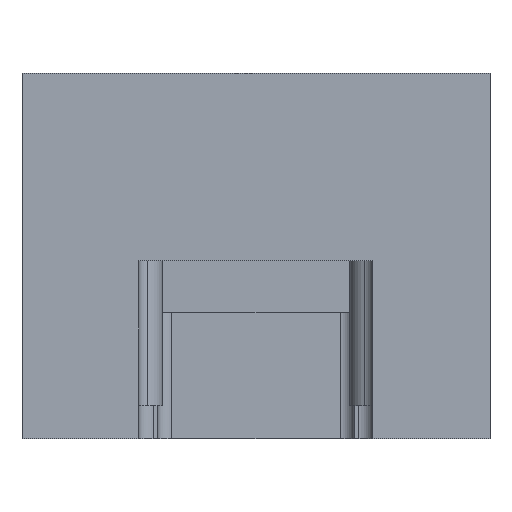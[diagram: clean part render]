
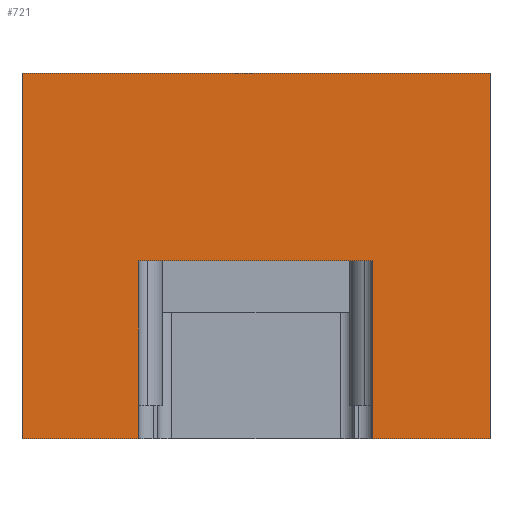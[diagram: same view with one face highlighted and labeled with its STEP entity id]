
A CAD part, front view. The second image highlights one B-rep face of the part: STEP entity #721.
In plain terms, the highlighted planar face has unit normal (0, -1, 0).
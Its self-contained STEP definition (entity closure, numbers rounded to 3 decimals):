
#80=CARTESIAN_POINT('Vertex',(-50.,-39.,57.)) ;
#87=CARTESIAN_POINT('Vertex',(-50.,-39.,-21.)) ;
#90=CARTESIAN_POINT('Line Origine',(-50.,-39.,18.)) ;
#107=CARTESIAN_POINT('Line Origine',(0.,-39.,57.)) ;
#111=CARTESIAN_POINT('Vertex',(50.,-39.,57.)) ;
#131=CARTESIAN_POINT('Line Origine',(50.,-39.,18.)) ;
#135=CARTESIAN_POINT('Vertex',(50.,-39.,-21.)) ;
#634=CARTESIAN_POINT('Vertex',(-25.,-39.,-21.)) ;
#639=CARTESIAN_POINT('Line Origine',(-37.5,-39.,-21.)) ;
#644=CARTESIAN_POINT('Line Origine',(37.5,-39.,-21.)) ;
#648=CARTESIAN_POINT('Vertex',(25.,-39.,-21.)) ;
#687=CARTESIAN_POINT('Axis2P3D Location',(0.,-39.,57.)) ;
#692=CARTESIAN_POINT('Line Origine',(-25.,-39.,-2.)) ;
#696=CARTESIAN_POINT('Vertex',(-25.,-39.,17.)) ;
#699=CARTESIAN_POINT('Line Origine',(0.,-39.,17.)) ;
#703=CARTESIAN_POINT('Vertex',(25.,-39.,17.)) ;
#706=CARTESIAN_POINT('Line Origine',(25.,-39.,-2.)) ;
#92=VECTOR('Line Direction',#91,1.) ;
#109=VECTOR('Line Direction',#108,1.) ;
#133=VECTOR('Line Direction',#132,1.) ;
#641=VECTOR('Line Direction',#640,1.) ;
#646=VECTOR('Line Direction',#645,1.) ;
#694=VECTOR('Line Direction',#693,1.) ;
#701=VECTOR('Line Direction',#700,1.) ;
#708=VECTOR('Line Direction',#707,1.) ;
#91=DIRECTION('Vector Direction',(0.,0.,-1.)) ;
#108=DIRECTION('Vector Direction',(1.,0.,0.)) ;
#132=DIRECTION('Vector Direction',(0.,0.,-1.)) ;
#640=DIRECTION('Vector Direction',(1.,0.,0.)) ;
#645=DIRECTION('Vector Direction',(1.,0.,0.)) ;
#688=DIRECTION('Axis2P3D Direction',(0.,-1.,0.)) ;
#689=DIRECTION('Axis2P3D XDirection',(0.,0.,-1.)) ;
#693=DIRECTION('Vector Direction',(0.,0.,1.)) ;
#700=DIRECTION('Vector Direction',(1.,0.,0.)) ;
#707=DIRECTION('Vector Direction',(0.,0.,1.)) ;
#690=AXIS2_PLACEMENT_3D('Plane Axis2P3D',#687,#688,#689) ;
#93=LINE('Line',#90,#92) ;
#110=LINE('Line',#107,#109) ;
#134=LINE('Line',#131,#133) ;
#642=LINE('Line',#639,#641) ;
#647=LINE('Line',#644,#646) ;
#695=LINE('Line',#692,#694) ;
#702=LINE('Line',#699,#701) ;
#709=LINE('Line',#706,#708) ;
#691=PLANE('',#690) ;
#94=EDGE_CURVE('',#81,#88,#93,.T.) ;
#113=EDGE_CURVE('',#81,#112,#110,.T.) ;
#137=EDGE_CURVE('',#112,#136,#134,.T.) ;
#643=EDGE_CURVE('',#88,#635,#642,.T.) ;
#650=EDGE_CURVE('',#649,#136,#647,.T.) ;
#698=EDGE_CURVE('',#635,#697,#695,.T.) ;
#705=EDGE_CURVE('',#704,#697,#702,.F.) ;
#710=EDGE_CURVE('',#649,#704,#709,.T.) ;
#712=ORIENTED_EDGE('',*,*,#650,.T.) ;
#713=ORIENTED_EDGE('',*,*,#137,.F.) ;
#714=ORIENTED_EDGE('',*,*,#113,.F.) ;
#715=ORIENTED_EDGE('',*,*,#94,.T.) ;
#716=ORIENTED_EDGE('',*,*,#643,.T.) ;
#717=ORIENTED_EDGE('',*,*,#698,.T.) ;
#718=ORIENTED_EDGE('',*,*,#705,.F.) ;
#719=ORIENTED_EDGE('',*,*,#710,.F.) ;
#711=EDGE_LOOP('',(#712,#713,#714,#715,#716,#717,#718,#719)) ;
#81=VERTEX_POINT('',#80) ;
#88=VERTEX_POINT('',#87) ;
#112=VERTEX_POINT('',#111) ;
#136=VERTEX_POINT('',#135) ;
#635=VERTEX_POINT('',#634) ;
#649=VERTEX_POINT('',#648) ;
#697=VERTEX_POINT('',#696) ;
#704=VERTEX_POINT('',#703) ;
#721=ADVANCED_FACE('Corps principal',(#720),#691,.T.) ;
#720=FACE_OUTER_BOUND('',#711,.T.) ;
